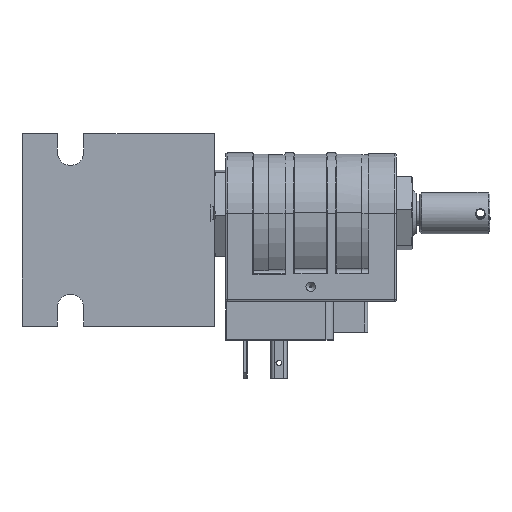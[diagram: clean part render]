
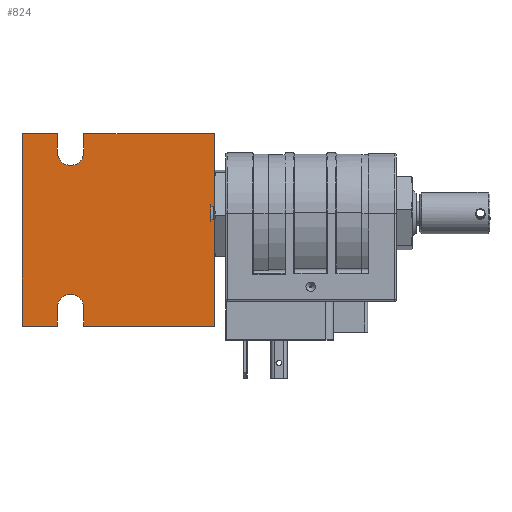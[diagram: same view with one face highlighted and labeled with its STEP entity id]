
A CAD part, left-side view. The second image highlights one B-rep face of the part: STEP entity #824.
In plain terms, the highlighted planar face has unit normal (-1, 0, 0) as drawn and (0, 0, 1) by its records, which use the part's own axes.
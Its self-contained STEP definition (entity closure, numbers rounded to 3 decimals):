
#824 = ADVANCED_FACE( '', ( #1741 ), #1742, .F. );
#1741 = FACE_OUTER_BOUND( '', #3166, .T. );
#1742 = PLANE( '', #3167 );
#3166 = EDGE_LOOP( '', ( #4934, #4935, #4936, #4937, #4938, #4939, #4940, #4941, #4942, #4943, #4944, #4945, #4946, #4947, #4948, #4949 ) );
#3167 = AXIS2_PLACEMENT_3D( '', #4950, #4951, #4952 );
#4934 = ORIENTED_EDGE( '', *, *, #7610, .T. );
#4935 = ORIENTED_EDGE( '', *, *, #7611, .T. );
#4936 = ORIENTED_EDGE( '', *, *, #7612, .T. );
#4937 = ORIENTED_EDGE( '', *, *, #7613, .F. );
#4938 = ORIENTED_EDGE( '', *, *, #7614, .F. );
#4939 = ORIENTED_EDGE( '', *, *, #7615, .T. );
#4940 = ORIENTED_EDGE( '', *, *, #7616, .T. );
#4941 = ORIENTED_EDGE( '', *, *, #7617, .T. );
#4942 = ORIENTED_EDGE( '', *, *, #7618, .F. );
#4943 = ORIENTED_EDGE( '', *, *, #7619, .F. );
#4944 = ORIENTED_EDGE( '', *, *, #7620, .F. );
#4945 = ORIENTED_EDGE( '', *, *, #7621, .F. );
#4946 = ORIENTED_EDGE( '', *, *, #7443, .F. );
#4947 = ORIENTED_EDGE( '', *, *, #7417, .F. );
#4948 = ORIENTED_EDGE( '', *, *, #7622, .F. );
#4949 = ORIENTED_EDGE( '', *, *, #7623, .F. );
#4950 = CARTESIAN_POINT( '', ( 0., 0., 31.75 ) );
#4951 = DIRECTION( '', ( 0., 0., -1. ) );
#4952 = DIRECTION( '', ( -1., 0., 0. ) );
#7417 = EDGE_CURVE( '', #9386, #9382, #9388, .T. );
#7443 = EDGE_CURVE( '', #9382, #9430, #9431, .T. );
#7610 = EDGE_CURVE( '', #9712, #9713, #9714, .T. );
#7611 = EDGE_CURVE( '', #9713, #9715, #9716, .T. );
#7612 = EDGE_CURVE( '', #9715, #9717, #9718, .T. );
#7613 = EDGE_CURVE( '', #9719, #9717, #9720, .T. );
#7614 = EDGE_CURVE( '', #9721, #9719, #9722, .T. );
#7615 = EDGE_CURVE( '', #9721, #9723, #9724, .T. );
#7616 = EDGE_CURVE( '', #9723, #9725, #9726, .T. );
#7617 = EDGE_CURVE( '', #9725, #9727, #9728, .F. );
#7618 = EDGE_CURVE( '', #9729, #9727, #9730, .T. );
#7619 = EDGE_CURVE( '', #9731, #9729, #9732, .T. );
#7620 = EDGE_CURVE( '', #9733, #9731, #9734, .T. );
#7621 = EDGE_CURVE( '', #9430, #9733, #9735, .T. );
#7622 = EDGE_CURVE( '', #9736, #9386, #9737, .T. );
#7623 = EDGE_CURVE( '', #9712, #9736, #9738, .T. );
#9382 = VERTEX_POINT( '', #11156 );
#9386 = VERTEX_POINT( '', #11162 );
#9388 = LINE( '', #11165, #11166 );
#9430 = VERTEX_POINT( '', #11223 );
#9431 = LINE( '', #11224, #11225 );
#9712 = VERTEX_POINT( '', #11889 );
#9713 = VERTEX_POINT( '', #11890 );
#9714 = LINE( '', #11891, #11892 );
#9715 = VERTEX_POINT( '', #11893 );
#9716 = CIRCLE( '', #11894, 3.5 );
#9717 = VERTEX_POINT( '', #11895 );
#9718 = LINE( '', #11896, #11897 );
#9719 = VERTEX_POINT( '', #11898 );
#9720 = LINE( '', #11899, #11900 );
#9721 = VERTEX_POINT( '', #11901 );
#9722 = LINE( '', #11902, #11903 );
#9723 = VERTEX_POINT( '', #11904 );
#9724 = LINE( '', #11905, #11906 );
#9725 = VERTEX_POINT( '', #11907 );
#9726 = LINE( '', #11908, #11909 );
#9727 = VERTEX_POINT( '', #11910 );
#9728 = LINE( '', #11911, #11912 );
#9729 = VERTEX_POINT( '', #11913 );
#9730 = LINE( '', #11914, #11915 );
#9731 = VERTEX_POINT( '', #11916 );
#9732 = LINE( '', #11917, #11918 );
#9733 = VERTEX_POINT( '', #11919 );
#9734 = LINE( '', #11920, #11921 );
#9735 = CIRCLE( '', #11922, 3.5 );
#9736 = VERTEX_POINT( '', #11923 );
#9737 = LINE( '', #11924, #11925 );
#9738 = LINE( '', #11926, #11927 );
#11156 = CARTESIAN_POINT( '', ( -25.4, -16.1, 31.75 ) );
#11162 = CARTESIAN_POINT( '', ( -25.4, -25.4, 31.75 ) );
#11165 = CARTESIAN_POINT( '', ( -25.4, -25.4, 31.75 ) );
#11166 = VECTOR( '', #14592, 1000. );
#11223 = CARTESIAN_POINT( '', ( -20.5, -16.1, 31.75 ) );
#11224 = CARTESIAN_POINT( '', ( -20.5, -16.1, 31.75 ) );
#11225 = VECTOR( '', #14618, 1000. );
#11889 = CARTESIAN_POINT( '', ( 25.4, -16.1, 31.75 ) );
#11890 = CARTESIAN_POINT( '', ( 20.5, -16.1, 31.75 ) );
#11891 = CARTESIAN_POINT( '', ( 20.5, -16.1, 31.75 ) );
#11892 = VECTOR( '', #14813, 1000. );
#11893 = CARTESIAN_POINT( '', ( 20.5, -9.1, 31.75 ) );
#11894 = AXIS2_PLACEMENT_3D( '', #14814, #14815, #14816 );
#11895 = CARTESIAN_POINT( '', ( 25.4, -9.1, 31.75 ) );
#11896 = CARTESIAN_POINT( '', ( 20.5, -9.1, 31.75 ) );
#11897 = VECTOR( '', #14817, 1000. );
#11898 = CARTESIAN_POINT( '', ( 25.4, 25.4, 31.75 ) );
#11899 = CARTESIAN_POINT( '', ( 25.4, 25.4, 31.75 ) );
#11900 = VECTOR( '', #14818, 1000. );
#11901 = CARTESIAN_POINT( '', ( -2.754, 25.4, 31.75 ) );
#11902 = CARTESIAN_POINT( '', ( -25.4, 25.4, 31.75 ) );
#11903 = VECTOR( '', #14819, 1000. );
#11904 = CARTESIAN_POINT( '', ( -2.754, 24.4, 31.75 ) );
#11905 = CARTESIAN_POINT( '', ( -2.754, 25.4, 31.75 ) );
#11906 = VECTOR( '', #14820, 1000. );
#11907 = CARTESIAN_POINT( '', ( -6.046, 24.4, 31.75 ) );
#11908 = CARTESIAN_POINT( '', ( 0., 24.4, 31.75 ) );
#11909 = VECTOR( '', #14821, 1000. );
#11910 = CARTESIAN_POINT( '', ( -6.046, 25.4, 31.75 ) );
#11911 = CARTESIAN_POINT( '', ( -6.046, 25.4, 31.75 ) );
#11912 = VECTOR( '', #14822, 1000. );
#11913 = CARTESIAN_POINT( '', ( -25.4, 25.4, 31.75 ) );
#11914 = CARTESIAN_POINT( '', ( -25.4, 25.4, 31.75 ) );
#11915 = VECTOR( '', #14823, 1000. );
#11916 = CARTESIAN_POINT( '', ( -25.4, -9.1, 31.75 ) );
#11917 = CARTESIAN_POINT( '', ( -25.4, -25.4, 31.75 ) );
#11918 = VECTOR( '', #14824, 1000. );
#11919 = CARTESIAN_POINT( '', ( -20.5, -9.1, 31.75 ) );
#11920 = CARTESIAN_POINT( '', ( -20.5, -9.1, 31.75 ) );
#11921 = VECTOR( '', #14825, 1000. );
#11922 = AXIS2_PLACEMENT_3D( '', #14826, #14827, #14828 );
#11923 = CARTESIAN_POINT( '', ( 25.4, -25.4, 31.75 ) );
#11924 = CARTESIAN_POINT( '', ( 25.4, -25.4, 31.75 ) );
#11925 = VECTOR( '', #14829, 1000. );
#11926 = CARTESIAN_POINT( '', ( 25.4, 25.4, 31.75 ) );
#11927 = VECTOR( '', #14830, 1000. );
#14592 = DIRECTION( '', ( 0., 1., 0. ) );
#14618 = DIRECTION( '', ( 1., 0., 0. ) );
#14813 = DIRECTION( '', ( -1., 0., 0. ) );
#14814 = CARTESIAN_POINT( '', ( 20.5, -12.6, 31.75 ) );
#14815 = DIRECTION( '', ( 0., 0., -1. ) );
#14816 = DIRECTION( '', ( 1., 0., 0. ) );
#14817 = DIRECTION( '', ( 1., 0., 0. ) );
#14818 = DIRECTION( '', ( 0., -1., 0. ) );
#14819 = DIRECTION( '', ( 1., 0., 0. ) );
#14820 = DIRECTION( '', ( 0., -1., 0. ) );
#14821 = DIRECTION( '', ( -1., 0., 0. ) );
#14822 = DIRECTION( '', ( 0., -1., 0. ) );
#14823 = DIRECTION( '', ( 1., 0., 0. ) );
#14824 = DIRECTION( '', ( 0., 1., 0. ) );
#14825 = DIRECTION( '', ( -1., 0., 0. ) );
#14826 = CARTESIAN_POINT( '', ( -20.5, -12.6, 31.75 ) );
#14827 = DIRECTION( '', ( 0., 0., 1. ) );
#14828 = DIRECTION( '', ( -1., 0., 0. ) );
#14829 = DIRECTION( '', ( -1., 0., 0. ) );
#14830 = DIRECTION( '', ( 0., -1., 0. ) );
